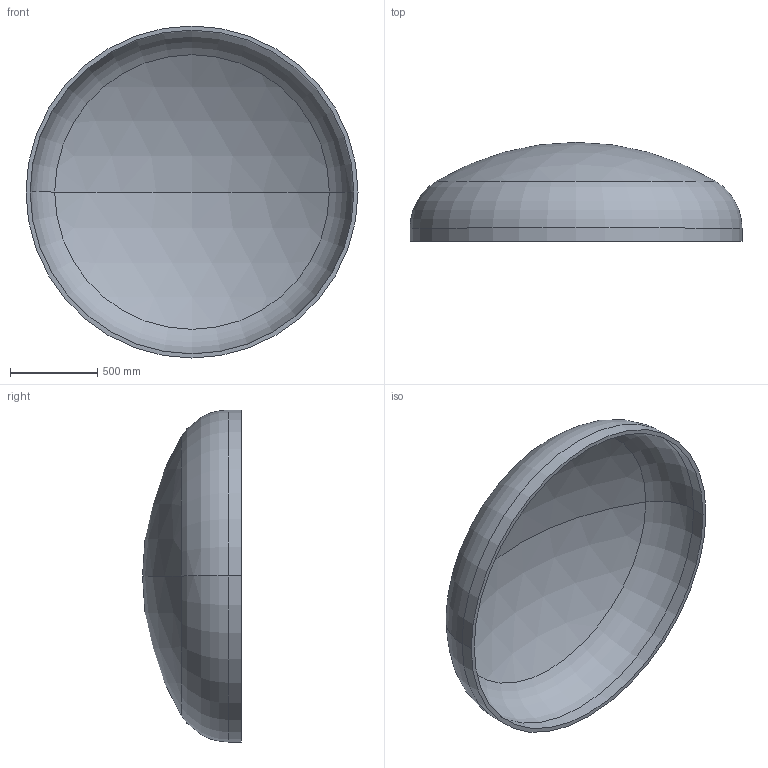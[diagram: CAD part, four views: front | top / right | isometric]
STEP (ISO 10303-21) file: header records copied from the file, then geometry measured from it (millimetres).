
FILE_DESCRIPTION (( 'STEP AP203' ), '1' );
FILE_NAME ('DIN 28013 Korbbogenform_-_Boden DIN 28013 - 1900 x 75 - I - s=24.step', '2016-07-01T13:01:07', ( '' ), ( '' ), 'SwSTEP 2.0', 'SolidWorks 2013', '' );
FILE_SCHEMA (( 'CONFIG_CONTROL_DESIGN' ));
Length unit declared in the file: millimetre
Products named in the file (1): DIN 28013 Korbbogenform_-_Boden DIN 28013 - 1900 x 75 - I - s=24
Bounding box: 1900 x 566.19 x 1900 mm (x, y, z)
Volume: 103129856.2 mm3; surface area: 8736805.1 mm2
Topology: 1 solids, 1 shells, 13 faces, 24 edges, 14 vertices
Faces by surface type: torus 4, cylinder 4, sphere 4, plane 1
Entity records: 407 total; most frequent: DIRECTION 72, CARTESIAN_POINT 52, ORIENTED_EDGE 48, AXIS2_PLACEMENT_3D 34, EDGE_CURVE 24, CIRCLE 20, VERTEX_POINT 14, EDGE_LOOP 14
